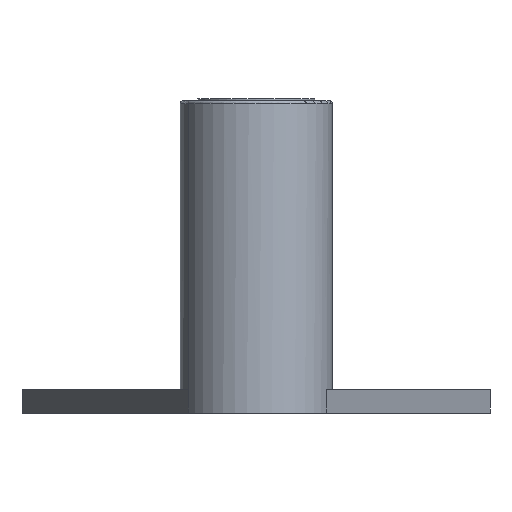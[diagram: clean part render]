
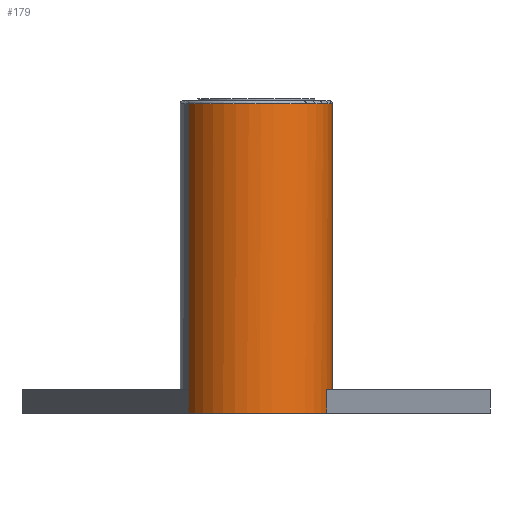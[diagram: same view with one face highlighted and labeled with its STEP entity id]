
A CAD part, front view. The second image highlights one B-rep face of the part: STEP entity #179.
In plain terms, the highlighted cylindrical face has radius 6.5 mm (diameter 13 mm), a partial arc.
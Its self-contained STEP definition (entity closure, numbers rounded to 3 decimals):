
#1 = CARTESIAN_POINT ( 'NONE',  ( 0.012, -28.506, 0. ) ) ;
#45 = DIRECTION ( 'NONE',  ( -0.891, -0.453, 0. ) ) ;
#61 = CARTESIAN_POINT ( 'NONE',  ( -5.782, -31.453, 26.45 ) ) ;
#95 = EDGE_CURVE ( 'NONE', #511, #321, #443, .T. ) ;
#99 = EDGE_CURVE ( 'NONE', #865, #511, #193, .T. ) ;
#101 = VERTEX_POINT ( 'NONE', #731 ) ;
#117 = CARTESIAN_POINT ( 'NONE',  ( 0.012, -28.506, 2. ) ) ;
#154 = EDGE_CURVE ( 'NONE', #574, #101, #429, .T. ) ;
#167 = VERTEX_POINT ( 'NONE', #61 ) ;
#179 = ADVANCED_FACE ( 'NONE', ( #254 ), #750, .T. ) ;
#183 = CARTESIAN_POINT ( 'NONE',  ( 0.012, -28.506, 26.45 ) ) ;
#189 = CARTESIAN_POINT ( 'NONE',  ( 6.048, -30.917, 0. ) ) ;
#193 = CIRCLE ( 'NONE', #700, 6.5 ) ;
#206 = EDGE_CURVE ( 'NONE', #167, #576, #785, .T. ) ;
#228 = DIRECTION ( 'NONE',  ( 0.891, 0.453, 0. ) ) ;
#232 = CARTESIAN_POINT ( 'NONE',  ( 0.012, -28.506, 0. ) ) ;
#254 = FACE_OUTER_BOUND ( 'NONE', #541, .T. ) ;
#264 = ORIENTED_EDGE ( 'NONE', *, *, #206, .F. ) ;
#284 = CARTESIAN_POINT ( 'NONE',  ( -5.782, -31.453, 2. ) ) ;
#297 = LINE ( 'NONE', #768, #833 ) ;
#306 = CARTESIAN_POINT ( 'NONE',  ( -5.782, -31.453, 0. ) ) ;
#313 = LINE ( 'NONE', #462, #590 ) ;
#321 = VERTEX_POINT ( 'NONE', #284 ) ;
#337 = DIRECTION ( 'NONE',  ( 0., 0., 1. ) ) ;
#348 = ORIENTED_EDGE ( 'NONE', *, *, #627, .T. ) ;
#352 = CARTESIAN_POINT ( 'NONE',  ( 6.512, -28.506, 26.45 ) ) ;
#366 = AXIS2_PLACEMENT_3D ( 'NONE', #748, #337, #228 ) ;
#372 = VERTEX_POINT ( 'NONE', #867 ) ;
#379 = AXIS2_PLACEMENT_3D ( 'NONE', #1, #883, #681 ) ;
#402 = LINE ( 'NONE', #540, #638 ) ;
#414 = AXIS2_PLACEMENT_3D ( 'NONE', #117, #509, #45 ) ;
#418 = CARTESIAN_POINT ( 'NONE',  ( -5.782, -31.453, 0. ) ) ;
#425 = ORIENTED_EDGE ( 'NONE', *, *, #99, .F. ) ;
#427 = DIRECTION ( 'NONE',  ( 0., 0., 1. ) ) ;
#429 = CIRCLE ( 'NONE', #414, 6.5 ) ;
#443 = LINE ( 'NONE', #306, #747 ) ;
#447 = AXIS2_PLACEMENT_3D ( 'NONE', #183, #876, #811 ) ;
#462 = CARTESIAN_POINT ( 'NONE',  ( 5.806, -25.559, 0. ) ) ;
#498 = EDGE_CURVE ( 'NONE', #574, #372, #313, .T. ) ;
#509 = DIRECTION ( 'NONE',  ( 0., 0., -1. ) ) ;
#511 = VERTEX_POINT ( 'NONE', #418 ) ;
#538 = ORIENTED_EDGE ( 'NONE', *, *, #498, .T. ) ;
#540 = CARTESIAN_POINT ( 'NONE',  ( 6.048, -30.917, 0. ) ) ;
#541 = EDGE_LOOP ( 'NONE', ( #749, #735, #425, #348, #666, #538, #771, #264 ) ) ;
#574 = VERTEX_POINT ( 'NONE', #619 ) ;
#576 = VERTEX_POINT ( 'NONE', #352 ) ;
#583 = DIRECTION ( 'NONE',  ( 0.891, 0.453, 0. ) ) ;
#590 = VECTOR ( 'NONE', #717, 1000. ) ;
#619 = CARTESIAN_POINT ( 'NONE',  ( 5.806, -25.559, 2. ) ) ;
#627 = EDGE_CURVE ( 'NONE', #865, #101, #402, .T. ) ;
#633 = EDGE_CURVE ( 'NONE', #576, #372, #846, .T. ) ;
#638 = VECTOR ( 'NONE', #821, 1000. ) ;
#657 = DIRECTION ( 'NONE',  ( 0., 0., 1. ) ) ;
#666 = ORIENTED_EDGE ( 'NONE', *, *, #154, .F. ) ;
#681 = DIRECTION ( 'NONE',  ( 0.891, 0.453, 0. ) ) ;
#700 = AXIS2_PLACEMENT_3D ( 'NONE', #232, #724, #583 ) ;
#713 = EDGE_CURVE ( 'NONE', #321, #167, #297, .T. ) ;
#717 = DIRECTION ( 'NONE',  ( 0., 0., 1. ) ) ;
#724 = DIRECTION ( 'NONE',  ( 0., 0., -1. ) ) ;
#731 = CARTESIAN_POINT ( 'NONE',  ( 6.048, -30.917, 2. ) ) ;
#735 = ORIENTED_EDGE ( 'NONE', *, *, #95, .F. ) ;
#747 = VECTOR ( 'NONE', #657, 1000. ) ;
#748 = CARTESIAN_POINT ( 'NONE',  ( 0.012, -28.506, 26.45 ) ) ;
#749 = ORIENTED_EDGE ( 'NONE', *, *, #713, .F. ) ;
#750 = CYLINDRICAL_SURFACE ( 'NONE', #379, 6.5 ) ;
#768 = CARTESIAN_POINT ( 'NONE',  ( -5.782, -31.453, 0. ) ) ;
#771 = ORIENTED_EDGE ( 'NONE', *, *, #633, .F. ) ;
#785 = CIRCLE ( 'NONE', #447, 6.5 ) ;
#811 = DIRECTION ( 'NONE',  ( 0.891, 0.453, 0. ) ) ;
#821 = DIRECTION ( 'NONE',  ( 0., 0., 1. ) ) ;
#833 = VECTOR ( 'NONE', #427, 1000. ) ;
#846 = CIRCLE ( 'NONE', #366, 6.5 ) ;
#865 = VERTEX_POINT ( 'NONE', #189 ) ;
#867 = CARTESIAN_POINT ( 'NONE',  ( 5.806, -25.559, 26.45 ) ) ;
#876 = DIRECTION ( 'NONE',  ( 0., 0., 1. ) ) ;
#883 = DIRECTION ( 'NONE',  ( 0., 0., 1. ) ) ;
